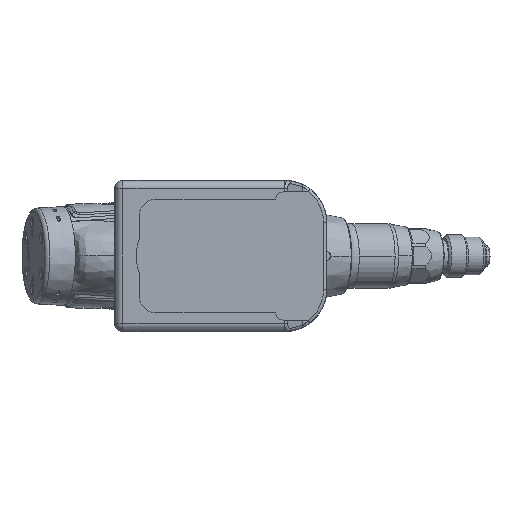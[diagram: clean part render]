
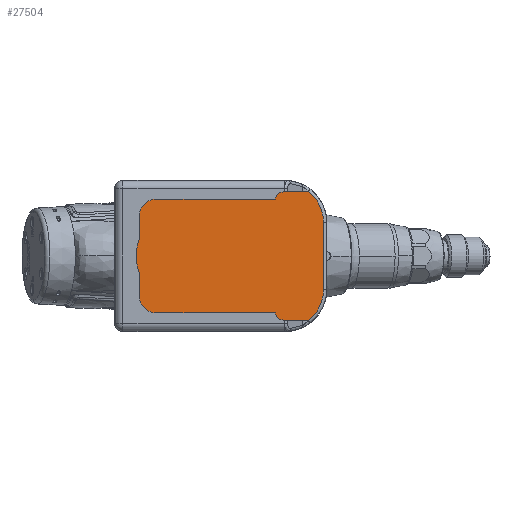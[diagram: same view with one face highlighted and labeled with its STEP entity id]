
A CAD part, front view. The second image highlights one B-rep face of the part: STEP entity #27504.
In plain terms, the highlighted planar face has unit normal (0, -1, 0).
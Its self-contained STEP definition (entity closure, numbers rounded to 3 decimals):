
#1121 = AXIS2_PLACEMENT_3D ( 'NONE', #4702, #44375, #84697 ) ;
#1860 = DIRECTION ( 'NONE',  ( 0., 0., -1. ) ) ;
#2313 = DIRECTION ( 'NONE',  ( 0., 0., -1. ) ) ;
#3684 = CIRCLE ( 'NONE', #35404, 9.75 ) ;
#4072 = CARTESIAN_POINT ( 'NONE',  ( -11.05, 15.3, -20.75 ) ) ;
#4389 = ORIENTED_EDGE ( 'NONE', *, *, #84786, .T. ) ;
#4702 = CARTESIAN_POINT ( 'NONE',  ( 0., 15.3, 0. ) ) ;
#6021 = PLANE ( 'NONE',  #55423 ) ;
#7808 = EDGE_CURVE ( 'NONE', #69619, #119358, #108297, .T. ) ;
#8957 = CARTESIAN_POINT ( 'NONE',  ( 59.648, 15.3, 0. ) ) ;
#9786 = CARTESIAN_POINT ( 'NONE',  ( 67., 15.3, 0. ) ) ;
#10234 = DIRECTION ( 'NONE',  ( 0., 0., -1. ) ) ;
#18798 = ORIENTED_EDGE ( 'NONE', *, *, #19140, .T. ) ;
#19140 = EDGE_CURVE ( 'NONE', #86381, #104796, #24177, .T. ) ;
#19689 = DIRECTION ( 'NONE',  ( 0., 0., 1. ) ) ;
#21042 = CARTESIAN_POINT ( 'NONE',  ( 48.5, 15.3, 16. ) ) ;
#21496 = CARTESIAN_POINT ( 'NONE',  ( 59.648, 15.3, 0. ) ) ;
#21727 = AXIS2_PLACEMENT_3D ( 'NONE', #21042, #72598, #1860 ) ;
#23391 = VERTEX_POINT ( 'NONE', #96171 ) ;
#24177 = LINE ( 'NONE', #64476, #108001 ) ;
#24527 = CIRCLE ( 'NONE', #47775, 9.75 ) ;
#25193 = DIRECTION ( 'NONE',  ( 0., 0., -1. ) ) ;
#26040 = EDGE_CURVE ( 'NONE', #23391, #117047, #94583, .T. ) ;
#26444 = CARTESIAN_POINT ( 'NONE',  ( -20.8, 15.3, 7.901 ) ) ;
#27504 = ADVANCED_FACE ( 'NONE', ( #96577 ), #6021, .T. ) ;
#29742 = CARTESIAN_POINT ( 'NONE',  ( -11.05, 15.3, 20.75 ) ) ;
#34311 = ORIENTED_EDGE ( 'NONE', *, *, #26040, .T. ) ;
#34899 = LINE ( 'NONE', #123479, #88000 ) ;
#34984 = VERTEX_POINT ( 'NONE', #26444 ) ;
#35404 = AXIS2_PLACEMENT_3D ( 'NONE', #4072, #44408, #98573 ) ;
#35766 = DIRECTION ( 'NONE',  ( 0., 0., -1. ) ) ;
#40191 = CIRCLE ( 'NONE', #114054, 18.5 ) ;
#40257 = CARTESIAN_POINT ( 'NONE',  ( -11.05, 15.3, 30.5 ) ) ;
#41943 = ORIENTED_EDGE ( 'NONE', *, *, #7808, .T. ) ;
#42709 = EDGE_CURVE ( 'NONE', #44077, #113723, #108771, .T. ) ;
#44077 = VERTEX_POINT ( 'NONE', #81795 ) ;
#44375 = DIRECTION ( 'NONE',  ( 0., 1., 0. ) ) ;
#44408 = DIRECTION ( 'NONE',  ( 0., -1., 0. ) ) ;
#44768 = EDGE_CURVE ( 'NONE', #63940, #34984, #83247, .T. ) ;
#45027 = CARTESIAN_POINT ( 'NONE',  ( 48.5, 15.3, -16. ) ) ;
#47775 = AXIS2_PLACEMENT_3D ( 'NONE', #29742, #122237, #70086 ) ;
#52384 = EDGE_CURVE ( 'NONE', #23391, #34984, #66520, .T. ) ;
#53162 = CARTESIAN_POINT ( 'NONE',  ( -11.05, 15.3, -30.5 ) ) ;
#55423 = AXIS2_PLACEMENT_3D ( 'NONE', #86027, #126315, #35766 ) ;
#56020 = EDGE_CURVE ( 'NONE', #104796, #63940, #24527, .T. ) ;
#56602 = ORIENTED_EDGE ( 'NONE', *, *, #52384, .F. ) ;
#57618 = EDGE_CURVE ( 'NONE', #79776, #69619, #110255, .T. ) ;
#60642 = ORIENTED_EDGE ( 'NONE', *, *, #44768, .T. ) ;
#60868 = EDGE_CURVE ( 'NONE', #119358, #86381, #111421, .T. ) ;
#61126 = ORIENTED_EDGE ( 'NONE', *, *, #57618, .T. ) ;
#61420 = CARTESIAN_POINT ( 'NONE',  ( 59.648, 15.3, 30.5 ) ) ;
#62610 = VECTOR ( 'NONE', #19689, 1000. ) ;
#63395 = CARTESIAN_POINT ( 'NONE',  ( -20.8, 15.3, 27. ) ) ;
#63940 = VERTEX_POINT ( 'NONE', #83893 ) ;
#64476 = CARTESIAN_POINT ( 'NONE',  ( 78., 15.3, 30.5 ) ) ;
#65481 = CARTESIAN_POINT ( 'NONE',  ( -20.8, 15.3, 27. ) ) ;
#65729 = ORIENTED_EDGE ( 'NONE', *, *, #102449, .T. ) ;
#66520 = CIRCLE ( 'NONE', #1121, 22.25 ) ;
#66935 = CARTESIAN_POINT ( 'NONE',  ( 67., 15.3, -16. ) ) ;
#69568 = CARTESIAN_POINT ( 'NONE',  ( 67., 15.3, 16. ) ) ;
#69619 = VERTEX_POINT ( 'NONE', #69568 ) ;
#70086 = DIRECTION ( 'NONE',  ( 0., 0., -1. ) ) ;
#71381 = ORIENTED_EDGE ( 'NONE', *, *, #56020, .T. ) ;
#71645 = CARTESIAN_POINT ( 'NONE',  ( 59.648, 15.3, 30.764 ) ) ;
#71817 = VECTOR ( 'NONE', #10234, 1000. ) ;
#72029 = DIRECTION ( 'NONE',  ( 0., 0., -1. ) ) ;
#72598 = DIRECTION ( 'NONE',  ( 0., -1., 0. ) ) ;
#75667 = CARTESIAN_POINT ( 'NONE',  ( -20.8, 15.3, -20.75 ) ) ;
#77008 = EDGE_CURVE ( 'NONE', #86850, #44077, #34899, .T. ) ;
#79776 = VERTEX_POINT ( 'NONE', #66935 ) ;
#80704 = VECTOR ( 'NONE', #72029, 1000. ) ;
#81795 = CARTESIAN_POINT ( 'NONE',  ( 59.648, 15.3, -30.5 ) ) ;
#83247 = LINE ( 'NONE', #63395, #80704 ) ;
#83820 = DIRECTION ( 'NONE',  ( 1., 0., 0. ) ) ;
#83893 = CARTESIAN_POINT ( 'NONE',  ( -20.8, 15.3, 20.75 ) ) ;
#84683 = DIRECTION ( 'NONE',  ( 0., 0., -1. ) ) ;
#84697 = DIRECTION ( 'NONE',  ( 0., 0., -1. ) ) ;
#84786 = EDGE_CURVE ( 'NONE', #113723, #79776, #40191, .T. ) ;
#85358 = DIRECTION ( 'NONE',  ( 0., -1., 0. ) ) ;
#86027 = CARTESIAN_POINT ( 'NONE',  ( 0., 15.3, 0. ) ) ;
#86381 = VERTEX_POINT ( 'NONE', #61420 ) ;
#86850 = VERTEX_POINT ( 'NONE', #53162 ) ;
#88000 = VECTOR ( 'NONE', #83820, 1000. ) ;
#94583 = LINE ( 'NONE', #65481, #114293 ) ;
#94840 = ORIENTED_EDGE ( 'NONE', *, *, #42709, .T. ) ;
#95274 = ORIENTED_EDGE ( 'NONE', *, *, #77008, .T. ) ;
#96171 = CARTESIAN_POINT ( 'NONE',  ( -20.8, 15.3, -7.901 ) ) ;
#96577 = FACE_OUTER_BOUND ( 'NONE', #117508, .T. ) ;
#98573 = DIRECTION ( 'NONE',  ( 0., 0., -1. ) ) ;
#102449 = EDGE_CURVE ( 'NONE', #117047, #86850, #3684, .T. ) ;
#104796 = VERTEX_POINT ( 'NONE', #40257 ) ;
#104797 = DIRECTION ( 'NONE',  ( -1., 0., 0. ) ) ;
#108001 = VECTOR ( 'NONE', #104797, 1000. ) ;
#108297 = CIRCLE ( 'NONE', #21727, 18.5 ) ;
#108771 = LINE ( 'NONE', #8957, #71817 ) ;
#110255 = LINE ( 'NONE', #9786, #62610 ) ;
#111421 = LINE ( 'NONE', #21496, #130567 ) ;
#113723 = VERTEX_POINT ( 'NONE', #127759 ) ;
#114054 = AXIS2_PLACEMENT_3D ( 'NONE', #45027, #85358, #25193 ) ;
#114293 = VECTOR ( 'NONE', #84683, 1000. ) ;
#117047 = VERTEX_POINT ( 'NONE', #75667 ) ;
#117504 = ORIENTED_EDGE ( 'NONE', *, *, #60868, .T. ) ;
#117508 = EDGE_LOOP ( 'NONE', ( #65729, #95274, #94840, #4389, #61126, #41943, #117504, #18798, #71381, #60642, #56602, #34311 ) ) ;
#119358 = VERTEX_POINT ( 'NONE', #71645 ) ;
#122237 = DIRECTION ( 'NONE',  ( 0., -1., 0. ) ) ;
#123479 = CARTESIAN_POINT ( 'NONE',  ( 48., 15.3, -30.5 ) ) ;
#126315 = DIRECTION ( 'NONE',  ( 0., -1., 0. ) ) ;
#127759 = CARTESIAN_POINT ( 'NONE',  ( 59.648, 15.3, -30.764 ) ) ;
#130567 = VECTOR ( 'NONE', #2313, 1000. ) ;
